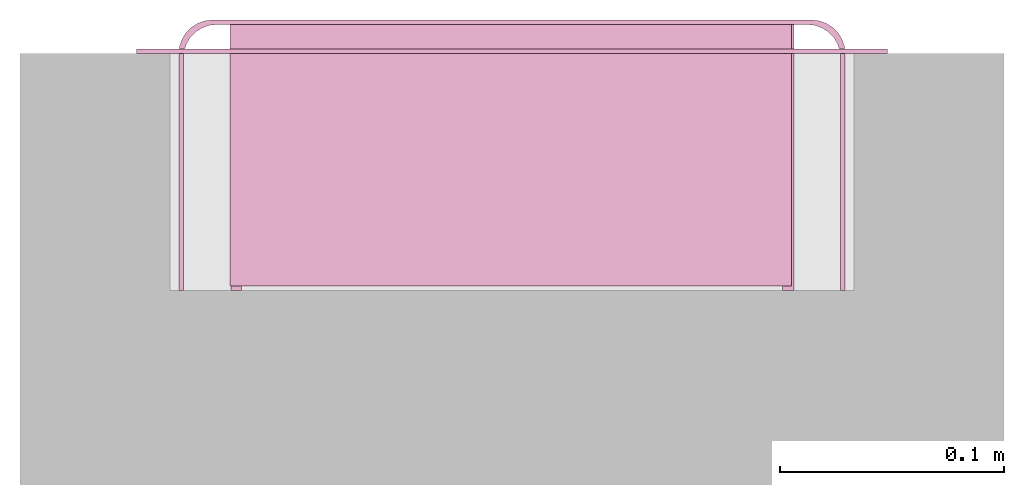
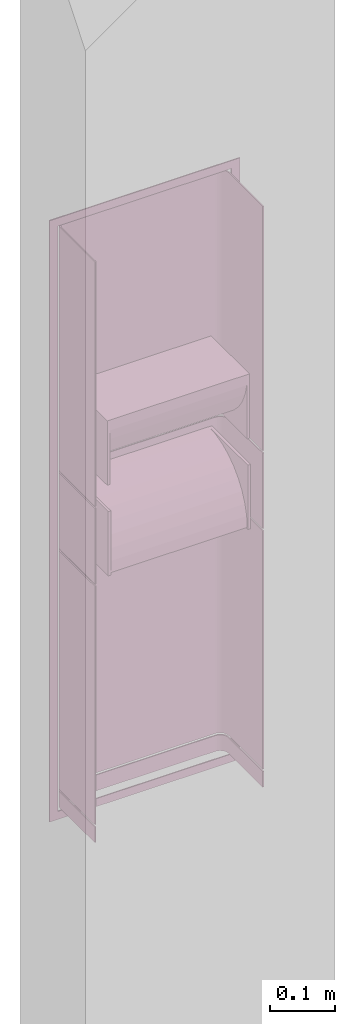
# One storey, part 2 of 2: 1 furnishing, 4 openings.
"""IFC2X3 building model written with IfcOpenShell, lengths in millimetres."""

from ifc_helpers import new_model, entity, si_unit, converted_unit, derived_unit, direction, frame, frame_2d, origin, origin_2d_with_axis, place, context, subcontext, project, spatial, polyline, circle_curve, parameter, trimmed, segment, composite_curve, rectangle, circle, outline, extrude, source, transform, mapped, type_object, type_shapes, element, save


model = new_model("IFC2X3")

# Units and contexts
model_context = context("Model", 3, precision=0.01, world=origin(), true_north=direction((6.12303176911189e-17, 1.0)))
context_of_model = context(None, 3, precision=0.01, world=origin(), true_north=direction((6.12303176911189e-17, 1.0)))
body_context = subcontext(model_context, "Body", "Model", "MODEL_VIEW")
ifc_project = project(units=[si_unit("LENGTHUNIT", "METRE", prefix="MILLI"), si_unit("AREAUNIT", "SQUARE_METRE"), si_unit("VOLUMEUNIT", "CUBIC_METRE"), converted_unit("PLANEANGLEUNIT", "DEGREE", entity("IfcRatioMeasure", 0.0174532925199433), si_unit("PLANEANGLEUNIT", "RADIAN"), dimensions=[0, 0, 0, 0, 0, 0, 0]), si_unit("MASSUNIT", "GRAM", prefix="KILO"), si_unit("TIMEUNIT", "SECOND"), si_unit("FREQUENCYUNIT", "HERTZ"), si_unit("THERMODYNAMICTEMPERATUREUNIT", "DEGREE_CELSIUS"), derived_unit("THERMALTRANSMITTANCEUNIT", [(si_unit("MASSUNIT", "GRAM", prefix="KILO"), 1), (si_unit("THERMODYNAMICTEMPERATUREUNIT", "KELVIN"), -1), (si_unit("TIMEUNIT", "SECOND"), -3)]), derived_unit("VOLUMETRICFLOWRATEUNIT", [(si_unit("LENGTHUNIT", "METRE"), 3), (si_unit("TIMEUNIT", "SECOND"), -1)]), si_unit("ELECTRICCURRENTUNIT", "AMPERE"), si_unit("ELECTRICVOLTAGEUNIT", "VOLT"), si_unit("POWERUNIT", "WATT"), si_unit("FORCEUNIT", "NEWTON", prefix="KILO"), si_unit("ILLUMINANCEUNIT", "LUX"), si_unit("LUMINOUSFLUXUNIT", "LUMEN"), si_unit("LUMINOUSINTENSITYUNIT", "CANDELA"), si_unit("PRESSUREUNIT", "PASCAL")], contexts=[model_context, context_of_model])

# Site, building, storey
site_placement = place(None, origin())
site = spatial("IfcSite", under=ifc_project, at=site_placement, Name="Default", CompositionType="ELEMENT")
building_placement = place(site_placement, origin())
building = spatial("IfcBuilding", under=site, at=building_placement, CompositionType="ELEMENT")
storey_placement = place(building_placement, origin())
storey = spatial("IfcBuildingStorey", under=building, at=storey_placement, Name="Level 1", CompositionType="ELEMENT", Elevation=0.0)

# Furnishing, openings
furniture_type = type_object("IfcFurnitureType", Name="d_line_Washroom_RecessedSanitaryPanels_PaperTowelDispenser_With_SquareOpeningWasteBin_PanelSize7", AssemblyPlace="NOTDEFINED")
shared_shape = source(origin(), body_context, "Body", "SweptSolid", [
    extrude(rectangle(XDim=118.999999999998, YDim=5.0, at=frame_2d((0.0, -8.43769498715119e-15), x_axis=(1.0, 0.0))), frame((291.500000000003, 59.4999999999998, 508.912956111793), z_axis=(0.0, 0.0, 1.0), x_axis=(0.0, 1.0, 0.0)), (0.0, 0.0, 1.0), 120.000000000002),
    extrude(rectangle(XDim=118.999999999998, YDim=4.55501180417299, at=origin_2d_with_axis()), frame((44.7224940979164, 59.4999999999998, 508.912956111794), z_axis=(0.0, 0.0, 1.0), x_axis=(0.0, 1.0, 0.0)), (0.0, 0.0, 1.0), 120.000000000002),
    extrude(outline(composite_curve([segment(polyline([(-57.0, 58.0), (-59.0, 58.0)]), True, "CONTINUOUS"), segment(trimmed(circle_curve(frame_2d((58.0, 58.0), x_axis=(1.0, 0.0)), 117.000000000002), [parameter(180.0)], [parameter(270.0)], True, "PARAMETER"), True, "CONTINUOUS"), segment(polyline([(58.0, -59.0), (58.0, -57.0)]), True, "CONTINUOUS"), segment(trimmed(circle_curve(frame_2d((58.0, 58.0), x_axis=(1.0, 0.0)), 115.000000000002), [parameter(180.0)], [parameter(270.0)], True, "PARAMETER"), False, "CONTINUOUS")], self_intersect=False)), frame((47.0, 61.0, 569.912956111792), z_axis=(-1.0, 0.0, 0.0), x_axis=(0.0, 1.0, 0.0)), (0.0, 0.0, -1.0), 242.0),
    extrude(rectangle(XDim=116.982904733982, YDim=5.0, at=frame_2d((0.0, 8.43769498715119e-15), x_axis=(1.0, 0.0))), frame((44.500000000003, 60.5085476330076, 677.0), z_axis=(0.0, 0.0, 1.0), x_axis=(0.0, 1.0, 0.0)), (0.0, 0.0, 1.0), 120.000000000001),
    extrude(rectangle(XDim=116.982904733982, YDim=3.94498313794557, at=origin_2d_with_axis()), frame((290.972491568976, 60.5085476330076, 677.0), z_axis=(0.0, 0.0, 1.0), x_axis=(0.0, 1.0, 0.0)), (0.0, 0.0, 1.0), 120.000000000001),
    extrude(outline(composite_curve([segment(polyline([(-76.3361825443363, 38.0), (38.6638174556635, 38.0)]), True, "CONTINUOUS"), segment(polyline([(38.6638174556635, 38.0), (38.6638174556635, 40.0)]), True, "CONTINUOUS"), segment(polyline([(38.6638174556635, 40.0), (-78.3190872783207, 40.0)]), True, "CONTINUOUS"), segment(trimmed(circle_curve(frame_2d((38.6638174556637, 38.0), x_axis=(1.0, 0.0)), 117.0), [parameter(179.020537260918)], [parameter(270.0)], True, "PARAMETER"), True, "CONTINUOUS"), segment(polyline([(38.6638174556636, -79.0), (38.6638174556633, -77.0)]), True, "CONTINUOUS"), segment(trimmed(circle_curve(frame_2d((38.6638174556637, 38.0), x_axis=(1.0, 0.0)), 115.0), [parameter(180.0)], [parameter(270.0)], True, "PARAMETER"), False, "CONTINUOUS")], self_intersect=False)), frame((47.0, 80.3361825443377, 757.0), z_axis=(1.0, 0.0, 0.0), x_axis=(0.0, 1.0, 0.0)), (0.0, 0.0, 1.0), 242.0),
    extrude(outline(composite_curve([segment(polyline([(-147.0, -29.0), (-147.0, 75.0)]), True, "CONTINUOUS"), segment(polyline([(-147.0, 75.0), (-149.0, 75.0)]), True, "CONTINUOUS"), segment(polyline([(-149.0, 75.0), (-149.0, -31.0)]), True, "CONTINUOUS"), segment(trimmed(circle_curve(frame_2d((-134.0, -31.0), x_axis=(1.0, 0.0)), 15.0), [parameter(180.0)], [parameter(270.0)], True, "PARAMETER"), True, "CONTINUOUS"), segment(polyline([(-134.0, -46.0), (134.0, -46.0)]), True, "CONTINUOUS"), segment(trimmed(circle_curve(frame_2d((134.0, -31.0), x_axis=(1.0, 0.0)), 15.0), [parameter(270.000000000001)], [parameter(8.65110873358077e-13)], True, "PARAMETER"), True, "CONTINUOUS"), segment(polyline([(149.0, -31.0), (149.0, 75.0)]), True, "CONTINUOUS"), segment(polyline([(149.0, 75.0), (147.0, 75.0)]), True, "CONTINUOUS"), segment(polyline([(147.0, 75.0), (147.0, -29.0)]), True, "CONTINUOUS"), segment(trimmed(circle_curve(frame_2d((132.0, -29.0), x_axis=(1.0, 0.0)), 15.0), [parameter(269.999999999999)], [parameter(359.999999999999)], True, "PARAMETER"), False, "CONTINUOUS"), segment(polyline([(132.0, -44.0), (-132.0, -44.0)]), True, "CONTINUOUS"), segment(trimmed(circle_curve(frame_2d((-132.0, -29.0), x_axis=(1.0, 0.0)), 15.0), [parameter(180.0)], [parameter(269.999999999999)], True, "PARAMETER"), False, "CONTINUOUS")], self_intersect=False)), frame((168.0, 75.0, 646.628302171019), z_axis=(0.0, 0.0, -1.0), x_axis=(1.0, 0.0, 0.0)), (0.0, 0.0, -1.0), 456.371697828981),
    extrude(outline(composite_curve([segment(polyline([(-147.0, -29.0), (-147.0, 75.0)]), True, "CONTINUOUS"), segment(polyline([(-147.0, 75.0), (-149.0, 75.0)]), True, "CONTINUOUS"), segment(polyline([(-149.0, 75.0), (-149.0, -31.0)]), True, "CONTINUOUS"), segment(trimmed(circle_curve(frame_2d((-134.0, -31.0), x_axis=(1.0, 0.0)), 15.0), [parameter(180.0)], [parameter(270.0)], True, "PARAMETER"), True, "CONTINUOUS"), segment(polyline([(-134.0, -46.0), (134.0, -46.0)]), True, "CONTINUOUS"), segment(trimmed(circle_curve(frame_2d((134.0, -31.0), x_axis=(1.0, 0.0)), 15.0), [parameter(270.000000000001)], [parameter(8.65110873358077e-13)], True, "PARAMETER"), True, "CONTINUOUS"), segment(polyline([(149.0, -31.0), (149.0, 75.0)]), True, "CONTINUOUS"), segment(polyline([(149.0, 75.0), (147.0, 75.0)]), True, "CONTINUOUS"), segment(polyline([(147.0, 75.0), (147.0, -29.0)]), True, "CONTINUOUS"), segment(trimmed(circle_curve(frame_2d((132.0, -29.0), x_axis=(1.0, 0.0)), 15.0), [parameter(269.999999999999)], [parameter(359.999999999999)], True, "PARAMETER"), False, "CONTINUOUS"), segment(polyline([(132.0, -44.0), (-132.0, -44.0)]), True, "CONTINUOUS"), segment(trimmed(circle_curve(frame_2d((-132.0, -29.0), x_axis=(1.0, 0.0)), 15.0), [parameter(180.0)], [parameter(269.999999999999)], True, "PARAMETER"), False, "CONTINUOUS")], self_intersect=False)), frame((168.0, 75.0, 501.628302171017), z_axis=(0.0, 0.0, -1.0), x_axis=(1.0, 0.0, 0.0)), (0.0, 0.0, -1.0), 141.000000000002),
    extrude(outline(composite_curve([segment(polyline([(-147.0, -29.0), (-147.0, 75.0)]), True, "CONTINUOUS"), segment(polyline([(-147.0, 75.0), (-149.0, 75.0)]), True, "CONTINUOUS"), segment(polyline([(-149.0, 75.0), (-149.0, -31.0)]), True, "CONTINUOUS"), segment(trimmed(circle_curve(frame_2d((-134.0, -31.0), x_axis=(1.0, 0.0)), 15.0), [parameter(180.0)], [parameter(270.0)], True, "PARAMETER"), True, "CONTINUOUS"), segment(polyline([(-134.0, -46.0), (134.0, -46.0)]), True, "CONTINUOUS"), segment(trimmed(circle_curve(frame_2d((134.0, -31.0), x_axis=(1.0, 0.0)), 15.0), [parameter(270.000000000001)], [parameter(8.65110873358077e-13)], True, "PARAMETER"), True, "CONTINUOUS"), segment(polyline([(149.0, -31.0), (149.0, 75.0)]), True, "CONTINUOUS"), segment(polyline([(149.0, 75.0), (147.0, 75.0)]), True, "CONTINUOUS"), segment(polyline([(147.0, 75.0), (147.0, -29.0)]), True, "CONTINUOUS"), segment(trimmed(circle_curve(frame_2d((132.0, -29.0), x_axis=(1.0, 0.0)), 15.0), [parameter(269.999999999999)], [parameter(359.999999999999)], True, "PARAMETER"), False, "CONTINUOUS"), segment(polyline([(132.0, -44.0), (-132.0, -44.0)]), True, "CONTINUOUS"), segment(trimmed(circle_curve(frame_2d((-132.0, -29.0), x_axis=(1.0, 0.0)), 15.0), [parameter(180.0)], [parameter(269.999999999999)], True, "PARAMETER"), False, "CONTINUOUS")], self_intersect=False)), frame((168.0, 75.0, 19.1283021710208), z_axis=(0.0, 0.0, -1.0), x_axis=(1.0, 0.0, 0.0)), (0.0, 0.0, -1.0), 29.5000000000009),
    extrude(outline(composite_curve([segment(polyline([(-147.0, -29.0), (-147.0, 75.0)]), True, "CONTINUOUS"), segment(polyline([(-147.0, 75.0), (-149.0, 75.0)]), True, "CONTINUOUS"), segment(polyline([(-149.0, 75.0), (-149.0, -31.0)]), True, "CONTINUOUS"), segment(trimmed(circle_curve(frame_2d((-134.0, -31.0), x_axis=(1.0, 0.0)), 15.0), [parameter(180.0)], [parameter(270.0)], True, "PARAMETER"), True, "CONTINUOUS"), segment(polyline([(-134.0, -46.0), (134.0, -46.0)]), True, "CONTINUOUS"), segment(trimmed(circle_curve(frame_2d((134.0, -31.0), x_axis=(1.0, 0.0)), 15.0), [parameter(270.000000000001)], [parameter(8.65110873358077e-13)], True, "PARAMETER"), True, "CONTINUOUS"), segment(polyline([(149.0, -31.0), (149.0, 75.0)]), True, "CONTINUOUS"), segment(polyline([(149.0, 75.0), (147.0, 75.0)]), True, "CONTINUOUS"), segment(polyline([(147.0, 75.0), (147.0, -29.0)]), True, "CONTINUOUS"), segment(trimmed(circle_curve(frame_2d((132.0, -29.0), x_axis=(1.0, 0.0)), 15.0), [parameter(269.999999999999)], [parameter(359.999999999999)], True, "PARAMETER"), False, "CONTINUOUS"), segment(polyline([(132.0, -44.0), (-132.0, -44.0)]), True, "CONTINUOUS"), segment(trimmed(circle_curve(frame_2d((-132.0, -29.0), x_axis=(1.0, 0.0)), 15.0), [parameter(180.0)], [parameter(269.999999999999)], True, "PARAMETER"), False, "CONTINUOUS")], self_intersect=False)), frame((168.0, 75.0, 52.6283021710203), z_axis=(0.0, 0.0, -1.0), x_axis=(1.0, 0.0, 0.0)), (0.0, 0.0, -1.0), 445.000000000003),
    extrude(outline(polyline([(-561.0, -168.0), (561.0, -168.0), (561.0, 168.0), (-561.0, 168.0), (-561.0, -168.0)]), holes=[polyline([(-546.0, 153.0), (546.0, 153.0), (546.0, -153.0), (-546.0, -153.0), (-546.0, 153.0)])]), frame((168.0, 106.0, 561.0), z_axis=(0.0, 1.0, 0.0), x_axis=(0.0, 0.0, 1.0)), (0.0, 0.0, 1.0), 2.0),
])
type_shapes(furniture_type, [shared_shape])
furnishing_placement = place(storey_placement, frame((-425.892083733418, 61.8381846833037, 985.0)))
furnishing = element("IfcFurnishingElement", 1, at=furnishing_placement, inside=storey, type_object=furniture_type, Name="14710007010b:d_line_Washroom_RecessedSanitaryPanels_PaperTowelDispenser_With_SquareOpeningWasteBin_PanelSize7", ObjectType="d_line_Washroom_RecessedSanitaryPanels_PaperTowelDispenser_With_SquareOpeningWasteBin_PanelSize7", context=body_context, shape_type="MappedRepresentation", body=[
    mapped(shared_shape, transform((0.0, 0.0, 0.0), scale=1.0)),
])
opening_1_placement = place(storey_placement, frame((-425.892083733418, 61.8381846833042, 985.0)))
element("IfcOpeningElement", 2, at=opening_1_placement, cuts=furnishing, Name="14710007010b:d_line_Washroom_RecessedSanitaryPanels_PaperTowelDispenser_With_SquareOpeningWasteBin_PanelSize7:1", ObjectType="Opening", context=body_context, shape_type="SweptSolid", body=[
    extrude(rectangle(XDim=115.000000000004, YDim=242.0, at=origin_2d_with_axis()), frame((51206.4000000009, 1943.80000000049, -298673.587043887), z_axis=(0.0, -1.0, 0.0), x_axis=(0.0, 0.0, -1.0)), (0.0, 0.0, 1.0), 1.99999999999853),
])
opening_2_placement = place(storey_placement, frame((-425.892083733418, 61.8381846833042, 985.0)))
element("IfcOpeningElement", 3, at=opening_2_placement, cuts=furnishing, Name="14710007010b:d_line_Washroom_RecessedSanitaryPanels_PaperTowelDispenser_With_SquareOpeningWasteBin_PanelSize7:2", ObjectType="Opening", context=body_context, shape_type="SweptSolid", body=[
    extrude(circle(Radius=20.0, at=origin_2d_with_axis()), frame((51262.7778313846, 1941.8000000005, -298401.498456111), z_axis=(0.0, 1.0, 0.0), x_axis=(1.0, 0.0, 0.0)), (0.0, 0.0, 1.0), 1.99999999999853),
])
opening_3_placement = place(storey_placement, frame((-425.892083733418, 61.8381846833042, 985.0)))
element("IfcOpeningElement", 4, at=opening_3_placement, cuts=furnishing, Name="14710007010b:d_line_Washroom_RecessedSanitaryPanels_PaperTowelDispenser_With_SquareOpeningWasteBin_PanelSize7:3", ObjectType="Opening", context=body_context, shape_type="SweptSolid", body=[
    extrude(circle(Radius=20.0, at=origin_2d_with_axis()), frame((51150.0221686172, 1941.8000000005, -298401.498456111), z_axis=(0.0, 1.0, 0.0), x_axis=(1.0, 0.0, 0.0)), (0.0, 0.0, 1.0), 1.99999999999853),
])
opening_4_placement = place(storey_placement, frame((-425.892083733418, 61.8381846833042, 985.0)))
element("IfcOpeningElement", 5, at=opening_4_placement, cuts=furnishing, Name="14710007010b:d_line_Washroom_RecessedSanitaryPanels_PaperTowelDispenser_With_SquareOpeningWasteBin_PanelSize7:4", ObjectType="Opening", context=body_context, shape_type="SweptSolid", body=[
    extrude(rectangle(XDim=114.999999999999, YDim=242.0, at=frame_2d((0.0, -1.35003119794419e-13), x_axis=(0.0, 1.0))), frame((51206.4000000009, 1941.8000000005, -298505.499999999), z_axis=(0.0, 1.0, 0.0), x_axis=(-1.0, 0.0, 0.0)), (0.0, 0.0, 1.0), 1.99999999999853),
])

save(model, "model.ifc")
